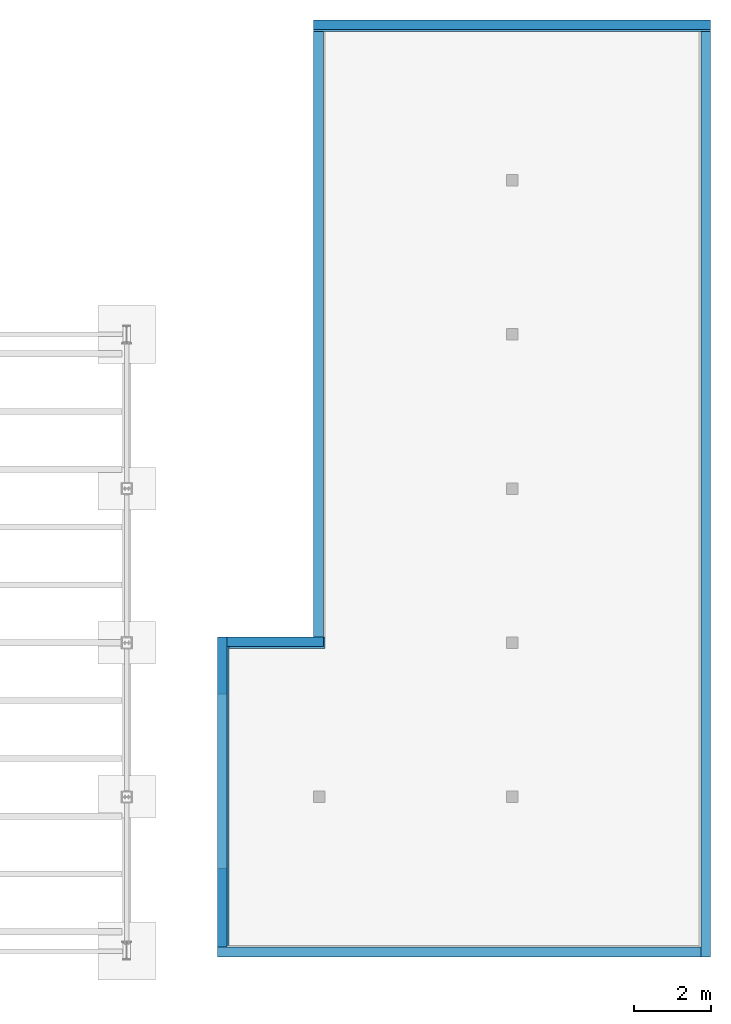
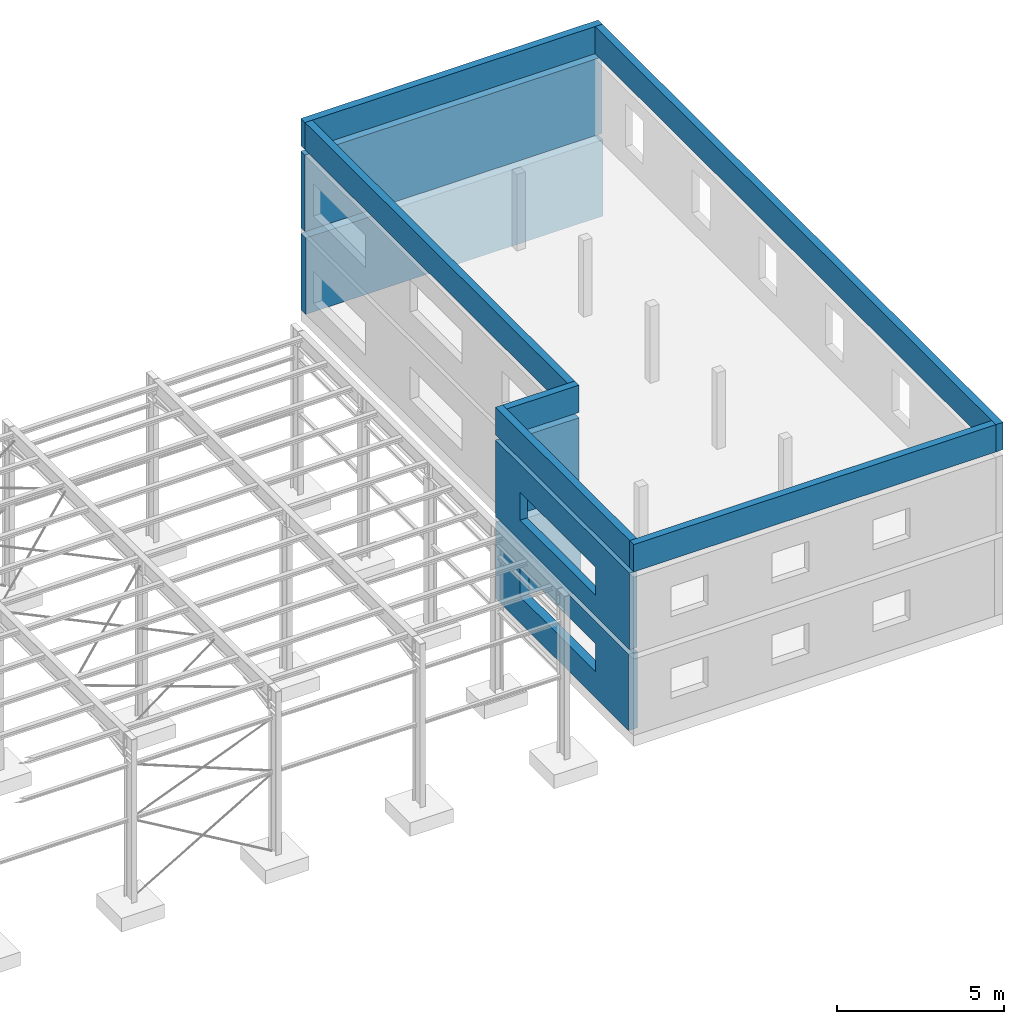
# Not in any storey, part 12 of 50: 12 walls, 2 openings.
"""IFC4 model written with IfcOpenShell, lengths in metres."""

from ifc_helpers import new_model, entity, si_unit, converted_unit, derived_unit, direction, frame, origin, place, context, subcontext, project, spatial, indexed_curve, outline, extrude, polygons, material, type_object, element, save


model = new_model("IFC4")

# Units and contexts
model_context = context("Model", 3, precision=1e-05, world=origin(), true_north=direction((6.123233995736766e-17, 1.0)))
body_context = subcontext(model_context, "Body", "Model", "MODEL_VIEW")
ifc_project = project(units=[si_unit("LENGTHUNIT", "METRE"), si_unit("AREAUNIT", "SQUARE_METRE"), converted_unit("PLANEANGLEUNIT", "DEGREE", entity("IfcPlaneAngleMeasure", 0.017453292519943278), si_unit("PLANEANGLEUNIT", "RADIAN"), dimensions=[0, 0, 0, 0, 0, 0, 0]), si_unit("VOLUMEUNIT", "CUBIC_METRE"), derived_unit("THERMALTRANSMITTANCEUNIT", [(si_unit("MASSUNIT", "GRAM", prefix="KILO"), 1), (si_unit("THERMODYNAMICTEMPERATUREUNIT", "KELVIN"), -1), (si_unit("TIMEUNIT", "SECOND"), -3)])], contexts=[model_context])

# Site
site_placement = place(None, origin())
site = spatial("IfcSite", under=ifc_project, at=site_placement, Name="Default", CompositionType="ELEMENT")

# Wall
ifc_material = material(Name="Ortbeton - bewehrt Verputzt", Category="Generisch")
wall_type_1 = type_object("IfcWallType", Name="Basiswand:STB 300", PredefinedType="STANDARD")
wall_1_placement = place(site_placement, frame((28.040144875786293, 25.938267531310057, 0.0)))
element("IfcWall", 1, at=wall_1_placement, inside=site, type_object=wall_type_1, material=ifc_material, Name="Basiswand:STB 300", ObjectType="Basiswand:STB 300", PredefinedType="NOTDEFINED", context=body_context, shape_type="Tessellation", body=[
    polygons([(4.107153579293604e-15, -0.15000000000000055, 0.0), (0.3000000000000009, -0.15000000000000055, 0.0), (10.000000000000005, -0.15000000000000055, 0.0), (10.300000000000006, -0.15000000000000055, 0.0), (10.300000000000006, -0.15000000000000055, 2.8000000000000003), (10.000000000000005, -0.15000000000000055, 2.8000000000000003), (0.3000000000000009, -0.15000000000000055, 2.8000000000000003), (4.107153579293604e-15, -0.15000000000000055, 2.8000000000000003), (3.1975451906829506e-15, 0.15000000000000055, 0.0), (3.1975451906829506e-15, 0.15000000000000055, 2.8000000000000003), (10.300000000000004, 0.15000000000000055, 2.8000000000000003), (10.300000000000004, 0.15000000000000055, 0.0)], [[[1, 2, 3, 4, 5, 6, 7, 8]], [[9, 10, 11, 12]], [[4, 3, 2, 1, 9, 12]], [[5, 4, 12, 11]], [[1, 8, 10, 9]], [[8, 7, 6, 5, 11, 10]]], closed=True),
])

# Wall, opening
wall_2_placement = place(site_placement, frame((25.69014487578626, 2.0797675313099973, 0.0), z_axis=(0.0, 0.0, 1.0), x_axis=(0.0, 1.0, 0.0)))
wall_2 = element("IfcWall", 2, at=wall_2_placement, inside=site, type_object=wall_type_1, material=ifc_material, Name="Basiswand:STB 300", ObjectType="Basiswand:STB 300", PredefinedType="NOTDEFINED", context=body_context, shape_type="Tessellation", body=[
    polygons([(-2.707167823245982e-16, -0.1500000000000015, 0.0), (7.700000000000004, -0.150000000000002, 0.0), (8.000000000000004, -0.1500000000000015, 0.0), (8.000000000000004, -0.1500000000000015, 2.8000000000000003), (7.700000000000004, -0.150000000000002, 2.8000000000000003), (5.414335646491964e-16, -0.1500000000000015, 2.8000000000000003), (1.9973267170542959, -0.1500000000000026, 1.9838702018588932), (6.519471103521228, -0.1500000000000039, 1.9838702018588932), (6.519471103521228, -0.1500000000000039, 0.9567677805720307), (1.9973267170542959, -0.1500000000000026, 0.9567677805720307), (8.000000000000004, 0.1499999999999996, 0.0), (1.0828671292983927e-15, 0.1499999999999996, 0.0), (2.707167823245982e-16, 0.1499999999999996, 2.8000000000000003), (8.000000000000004, 0.1499999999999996, 2.8000000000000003), (6.519471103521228, 0.1499999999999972, 1.9838702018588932), (1.9973267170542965, 0.1499999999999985, 1.9838702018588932), (1.9973267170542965, 0.1499999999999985, 0.9567677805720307), (6.519471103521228, 0.1499999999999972, 0.9567677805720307)], [[[1, 2, 3, 4, 5, 6], [7, 8, 9, 10]], [[11, 12, 13, 14], [15, 16, 17, 18]], [[3, 2, 1, 12, 11]], [[1, 6, 13, 12]], [[4, 3, 11, 14]], [[6, 5, 4, 14, 13]], [[7, 16, 15, 8]], [[9, 18, 17, 10]], [[16, 7, 10, 17]], [[8, 15, 18, 9]]], closed=True),
])
opening_1_placement = place(wall_2_placement, origin())
element("IfcOpeningElement", 3, at=opening_1_placement, cuts=wall_2, Name="Basiswand:STB 300", PredefinedType="OPENING", context=body_context, shape_type="SweptSolid", body=[
    extrude(outline(indexed_curve([(-0.5135512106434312, -2.2610721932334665), (0.5135512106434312, -2.2610721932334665), (0.5135512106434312, 2.261072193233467), (-0.5135512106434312, 2.261072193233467), (-0.5135512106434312, -2.2610721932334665)], self_intersect=False)), frame((4.258398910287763, -0.15000000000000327, 1.470318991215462), z_axis=(0.0, 1.0, 0.0), x_axis=(0.0, 0.0, -1.0)), (0.0, 0.0, 1.0), 0.3000000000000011),
])

# Walls
wall_3_placement = place(site_placement, frame((25.840144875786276, 9.92976753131, 0.0)))
element("IfcWall", 4, at=wall_3_placement, inside=site, type_object=wall_type_1, material=ifc_material, Name="Basiswand:STB 300", ObjectType="Basiswand:STB 300", PredefinedType="NOTDEFINED", context=body_context, shape_type="Tessellation", body=[
    polygons([(7.631440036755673e-16, -0.14999999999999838, 0.0), (2.499999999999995, -0.14999999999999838, 0.0), (2.499999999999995, -0.14999999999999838, 2.8000000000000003), (7.631440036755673e-16, -0.14999999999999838, 2.8000000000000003), (-2.7640844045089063e-16, 0.15000000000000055, 0.0), (-2.7640844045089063e-16, 0.15000000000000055, 2.8000000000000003), (2.1999999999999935, 0.15000000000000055, 2.8000000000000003), (2.4999999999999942, 0.15000000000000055, 2.8000000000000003), (2.4999999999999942, 0.15000000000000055, 0.0), (2.1999999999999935, 0.15000000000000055, 0.0)], [[[1, 2, 3, 4]], [[5, 6, 7, 8, 9, 10]], [[2, 1, 5, 10, 9]], [[1, 4, 6, 5]], [[3, 2, 9, 8]], [[4, 3, 8, 7, 6]]], closed=True),
])
wall_type_2 = type_object("IfcWallType", Name="Basiswand:STB 250", PredefinedType="STANDARD")
wall_4_placement = place(site_placement, frame((28.040144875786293, 25.963267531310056, 3.0)))
element("IfcWall", 5, at=wall_4_placement, inside=site, type_object=wall_type_2, material=ifc_material, Name="Basiswand:STB 250", ObjectType="Basiswand:STB 250", PredefinedType="NOTDEFINED", context=body_context, shape_type="Tessellation", body=[
    polygons([(4.034514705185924e-15, -0.12499999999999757, 0.0), (0.24999999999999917, -0.12499999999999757, 0.0), (10.050000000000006, -0.12499999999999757, 0.0), (10.300000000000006, -0.12499999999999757, 0.0), (10.300000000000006, -0.12499999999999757, 2.8000000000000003), (10.050000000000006, -0.12499999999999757, 2.8000000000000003), (0.24999999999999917, -0.12499999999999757, 2.8000000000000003), (4.034514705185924e-15, -0.12499999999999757, 2.8000000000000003), (3.193452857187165e-15, 0.12500000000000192, 0.0), (3.193452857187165e-15, 0.12500000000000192, 2.8000000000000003), (10.300000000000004, 0.12500000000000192, 2.8000000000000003), (10.300000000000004, 0.12500000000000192, 0.0)], [[[1, 2, 3, 4, 5, 6, 7, 8]], [[9, 10, 11, 12]], [[4, 3, 2, 1, 9, 12]], [[5, 4, 12, 11]], [[1, 8, 10, 9]], [[8, 7, 6, 5, 11, 10]]], closed=True),
])

# Wall, opening
wall_5_placement = place(site_placement, frame((25.66514487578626, 2.029767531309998, 3.0), z_axis=(0.0, 0.0, 1.0), x_axis=(0.0, 1.0, 0.0)))
wall_5 = element("IfcWall", 6, at=wall_5_placement, inside=site, type_object=wall_type_2, material=ifc_material, Name="Basiswand:STB 250", ObjectType="Basiswand:STB 250", PredefinedType="NOTDEFINED", context=body_context, shape_type="Tessellation", body=[
    polygons([(5.414335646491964e-16, -0.12499999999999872, 0.0), (7.8000000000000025, -0.1249999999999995, 0.0), (8.050000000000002, -0.12499999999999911, 0.0), (8.050000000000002, -0.12499999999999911, 2.8000000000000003), (7.8000000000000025, -0.1249999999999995, 2.8000000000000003), (5.414335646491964e-16, -0.12499999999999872, 2.8000000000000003), (2.0473267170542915, -0.12499999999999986, 1.7838702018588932), (6.569471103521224, -0.12500000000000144, 1.7838702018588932), (6.569471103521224, -0.12500000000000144, 0.7567677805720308), (2.0473267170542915, -0.12499999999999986, 0.7567677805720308), (8.050000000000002, 0.12500000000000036, 0.0), (2.707167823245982e-16, 0.12500000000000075, 0.0), (1.0828671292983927e-15, 0.12500000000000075, 2.8000000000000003), (8.050000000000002, 0.12500000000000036, 2.8000000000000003), (6.569471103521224, 0.1250000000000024, 1.7838702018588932), (2.0473267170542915, 0.12499999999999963, 1.7838702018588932), (2.0473267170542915, 0.12499999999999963, 0.7567677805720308), (6.569471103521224, 0.1250000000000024, 0.7567677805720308)], [[[1, 2, 3, 4, 5, 6], [7, 8, 9, 10]], [[11, 12, 13, 14], [15, 16, 17, 18]], [[3, 2, 1, 12, 11]], [[1, 6, 13, 12]], [[4, 3, 11, 14]], [[6, 5, 4, 14, 13]], [[7, 16, 15, 8]], [[9, 18, 17, 10]], [[16, 7, 10, 17]], [[8, 15, 18, 9]]], closed=True),
])
opening_2_placement = place(wall_5_placement, origin())
element("IfcOpeningElement", 7, at=opening_2_placement, cuts=wall_5, Name="Basiswand:STB 250", PredefinedType="OPENING", context=body_context, shape_type="SweptSolid", body=[
    extrude(outline(indexed_curve([(-0.5135512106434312, -2.2610721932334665), (0.5135512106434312, -2.2610721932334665), (0.5135512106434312, 2.2610721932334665), (-0.5135512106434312, 2.2610721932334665), (-0.5135512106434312, -2.2610721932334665)], self_intersect=False)), frame((4.308398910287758, -0.12500000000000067, 1.270318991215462), z_axis=(0.0, 1.0, 0.0), x_axis=(0.0, 0.0, -1.0)), (0.0, 0.0, 1.0), 0.25000000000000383),
])

# Walls
wall_6_placement = place(site_placement, frame((25.79014487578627, 9.95476753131, 3.0)))
element("IfcWall", 8, at=wall_6_placement, inside=site, type_object=wall_type_2, material=ifc_material, Name="Basiswand:STB 250", ObjectType="Basiswand:STB 250", PredefinedType="NOTDEFINED", context=body_context, shape_type="Tessellation", body=[
    polygons([(5.898852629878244e-16, -0.12499999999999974, 0.0), (2.499999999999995, -0.12499999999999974, 0.0), (2.499999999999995, -0.12499999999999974, 2.8000000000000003), (5.898852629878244e-16, -0.12499999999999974, 2.8000000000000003), (-2.7640844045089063e-16, 0.12499999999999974, 0.0), (-2.7640844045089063e-16, 0.12499999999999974, 2.8000000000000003), (2.249999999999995, 0.12499999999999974, 2.8000000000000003), (2.4999999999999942, 0.12499999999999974, 2.8000000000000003), (2.4999999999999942, 0.12499999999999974, 0.0), (2.249999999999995, 0.12499999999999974, 0.0)], [[[1, 2, 3, 4]], [[5, 6, 7, 8, 9, 10]], [[2, 1, 5, 10, 9]], [[1, 4, 6, 5]], [[3, 2, 9, 8]], [[4, 3, 8, 7, 6]]], closed=True),
])
wall_7_placement = place(site_placement, frame((28.040144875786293, 25.963267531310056, 6.0)))
element("IfcWall", 9, at=wall_7_placement, inside=site, type_object=wall_type_2, material=ifc_material, Name="Basiswand:STB 250", ObjectType="Basiswand:STB 250", PredefinedType="NOTDEFINED", context=body_context, shape_type="SweptSolid", body=[
    extrude(outline(indexed_curve([(10.300000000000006, 0.12500000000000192), (-4.20530923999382e-16, 0.12500000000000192), (4.20530923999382e-16, -0.12500000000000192), (10.300000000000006, -0.12500000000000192), (10.300000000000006, 0.12500000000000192)], self_intersect=False)), origin(), (0.0, 0.0, 1.0), 1.0),
])
wall_8_placement = place(site_placement, frame((38.2151448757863, 25.838267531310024, 6.0), z_axis=(0.0, 0.0, 1.0), x_axis=(0.0, -1.0, 0.0)))
element("IfcWall", 10, at=wall_8_placement, inside=site, type_object=wall_type_2, material=ifc_material, Name="Basiswand:STB 250", ObjectType="Basiswand:STB 250", PredefinedType="NOTDEFINED", context=body_context, shape_type="SweptSolid", body=[
    extrude(outline(indexed_curve([(24.058500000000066, 0.1250000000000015), (-2.004608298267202e-16, 0.12500000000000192), (2.004608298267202e-16, -0.12500000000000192), (24.058500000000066, -0.1250000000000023), (24.058500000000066, 0.1250000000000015)], self_intersect=False)), origin(), (0.0, 0.0, 1.0), 1.0),
])
wall_9_placement = place(site_placement, frame((38.090144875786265, 1.9047675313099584, 6.0), z_axis=(0.0, 0.0, 1.0), x_axis=(-1.0, 0.0, 0.0)))
element("IfcWall", 11, at=wall_9_placement, inside=site, type_object=wall_type_2, material=ifc_material, Name="Basiswand:STB 250", ObjectType="Basiswand:STB 250", PredefinedType="NOTDEFINED", context=body_context, shape_type="SweptSolid", body=[
    extrude(outline(indexed_curve([(12.55, 0.125), (-4.044889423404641e-16, 0.125), (4.044889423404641e-16, -0.125), (12.55, -0.125), (12.55, 0.125)], self_intersect=False)), origin(), (0.0, 0.0, 1.0), 1.0),
])
wall_10_placement = place(site_placement, frame((25.66514487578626, 2.029767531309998, 6.0), z_axis=(0.0, 0.0, 1.0), x_axis=(0.0, 1.0, 0.0)))
element("IfcWall", 12, at=wall_10_placement, inside=site, type_object=wall_type_2, material=ifc_material, Name="Basiswand:STB 250", ObjectType="Basiswand:STB 250", PredefinedType="NOTDEFINED", context=body_context, shape_type="SweptSolid", body=[
    extrude(outline(indexed_curve([(8.050000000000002, 0.12500000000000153), (7.501790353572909e-17, 0.12500000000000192), (-7.501790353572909e-17, -0.12500000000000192), (8.050000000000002, -0.1250000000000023), (8.050000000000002, 0.12500000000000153)], self_intersect=False)), origin(), (0.0, 0.0, 1.0), 1.0),
])
wall_11_placement = place(site_placement, frame((25.79014487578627, 9.95476753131, 6.0)))
element("IfcWall", 13, at=wall_11_placement, inside=site, type_object=wall_type_2, material=ifc_material, Name="Basiswand:STB 250", ObjectType="Basiswand:STB 250", PredefinedType="NOTDEFINED", context=body_context, shape_type="SweptSolid", body=[
    extrude(outline(indexed_curve([(2.4999999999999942, 0.12499999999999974), (-4.3314685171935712e-16, 0.12499999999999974), (4.3314685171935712e-16, -0.12499999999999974), (2.499999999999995, -0.12499999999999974), (2.4999999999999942, 0.12499999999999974)], self_intersect=False)), origin(), (0.0, 0.0, 1.0), 1.0),
])
wall_12_placement = place(site_placement, frame((28.16514487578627, 10.079767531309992, 6.0), z_axis=(0.0, 0.0, 1.0), x_axis=(0.0, 1.0, 0.0)))
element("IfcWall", 14, at=wall_12_placement, inside=site, type_object=wall_type_2, material=ifc_material, Name="Basiswand:STB 250", ObjectType="Basiswand:STB 250", PredefinedType="NOTDEFINED", context=body_context, shape_type="SweptSolid", body=[
    extrude(outline(indexed_curve([(15.758500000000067, 0.12500000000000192), (-2.0614915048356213e-16, 0.12500000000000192), (2.0614915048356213e-16, -0.12500000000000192), (15.758500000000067, -0.12500000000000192), (15.758500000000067, 0.12500000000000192)], self_intersect=False)), origin(), (0.0, 0.0, 1.0), 1.0),
])

save(model, "model.ifc")
